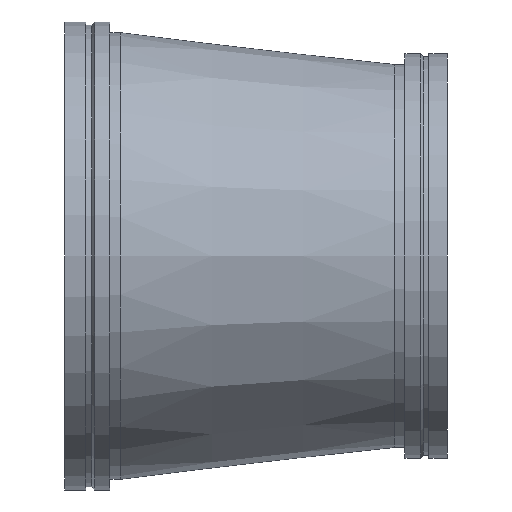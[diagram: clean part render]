
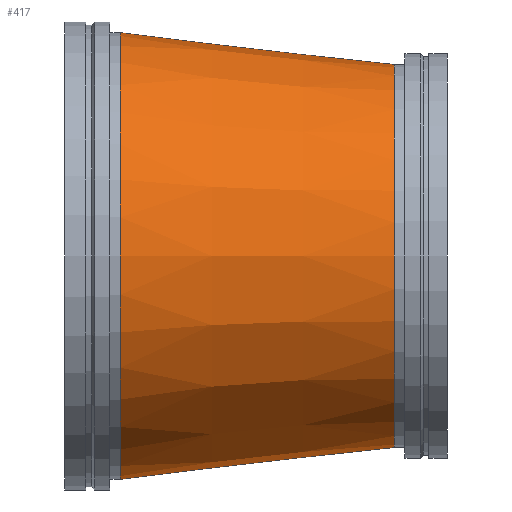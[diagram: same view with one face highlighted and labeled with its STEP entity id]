
A CAD part, front view. The second image highlights one B-rep face of the part: STEP entity #417.
In plain terms, the highlighted conical face has half-angle 6.645 degrees and reference radius 495.3 mm.
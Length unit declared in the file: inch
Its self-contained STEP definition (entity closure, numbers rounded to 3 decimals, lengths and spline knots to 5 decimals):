
#46=CONICAL_SURFACE('',#475,19.5,0.116);
#54=LINE('',#739,#68);
#68=VECTOR('',#587,19.5);
#101=FACE_OUTER_BOUND('',#124,.T.);
#124=EDGE_LOOP('',(#315,#316,#317,#318,#319,#320));
#155=CIRCLE('',#473,21.);
#156=CIRCLE('',#474,21.);
#157=CIRCLE('',#476,18.);
#158=CIRCLE('',#477,18.);
#195=VERTEX_POINT('',#729);
#196=VERTEX_POINT('',#730);
#197=VERTEX_POINT('',#735);
#198=VERTEX_POINT('',#736);
#239=EDGE_CURVE('',#195,#196,#155,.T.);
#240=EDGE_CURVE('',#196,#195,#156,.T.);
#242=EDGE_CURVE('',#197,#198,#157,.T.);
#243=EDGE_CURVE('',#198,#197,#158,.T.);
#244=EDGE_CURVE('',#198,#196,#54,.T.);
#315=ORIENTED_EDGE('',*,*,#242,.F.);
#316=ORIENTED_EDGE('',*,*,#243,.F.);
#317=ORIENTED_EDGE('',*,*,#244,.T.);
#318=ORIENTED_EDGE('',*,*,#240,.T.);
#319=ORIENTED_EDGE('',*,*,#239,.T.);
#320=ORIENTED_EDGE('',*,*,#244,.F.);
#417=ADVANCED_FACE('',(#101),#46,.T.);
#473=AXIS2_PLACEMENT_3D('',#731,#576,#577);
#474=AXIS2_PLACEMENT_3D('',#732,#578,#579);
#475=AXIS2_PLACEMENT_3D('',#734,#581,#582);
#476=AXIS2_PLACEMENT_3D('',#737,#583,#584);
#477=AXIS2_PLACEMENT_3D('',#738,#585,#586);
#576=DIRECTION('center_axis',(1.,0.,0.));
#577=DIRECTION('ref_axis',(0.,0.,-1.));
#578=DIRECTION('center_axis',(1.,0.,0.));
#579=DIRECTION('ref_axis',(0.,0.,-1.));
#581=DIRECTION('center_axis',(-1.,0.,0.));
#582=DIRECTION('ref_axis',(0.,1.,0.));
#583=DIRECTION('center_axis',(1.,0.,0.));
#584=DIRECTION('ref_axis',(0.,0.,-1.));
#585=DIRECTION('center_axis',(1.,0.,0.));
#586=DIRECTION('ref_axis',(0.,0.,-1.));
#587=DIRECTION('',(-0.993,-0.116,0.));
#729=CARTESIAN_POINT('',(5.25,21.,0.));
#730=CARTESIAN_POINT('',(5.25,-21.,0.));
#731=CARTESIAN_POINT('Origin',(5.25,0.,0.));
#732=CARTESIAN_POINT('Origin',(5.25,0.,0.));
#734=CARTESIAN_POINT('Origin',(18.125,0.,0.));
#735=CARTESIAN_POINT('',(31.,18.,0.));
#736=CARTESIAN_POINT('',(31.,-18.,0.));
#737=CARTESIAN_POINT('Origin',(31.,0.,0.));
#738=CARTESIAN_POINT('Origin',(31.,0.,0.));
#739=CARTESIAN_POINT('',(18.125,-19.5,0.));
